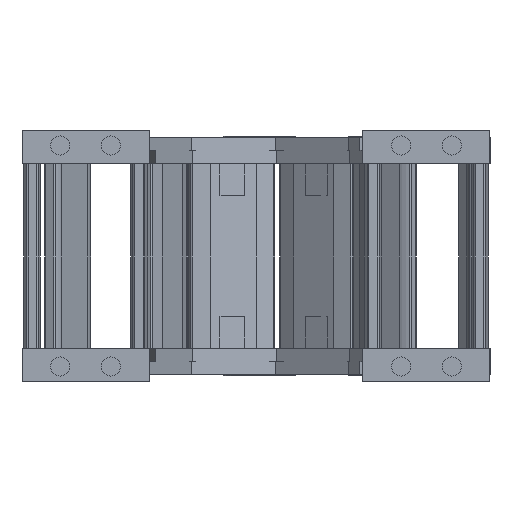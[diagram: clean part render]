
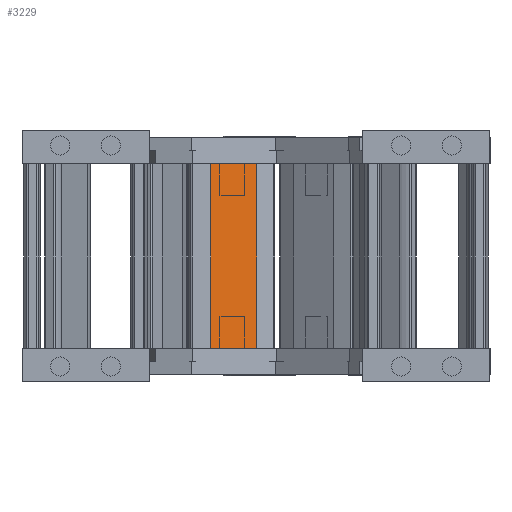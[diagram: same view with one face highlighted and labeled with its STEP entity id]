
A CAD part, left-side view. The second image highlights one B-rep face of the part: STEP entity #3229.
In plain terms, the highlighted planar face has unit normal (-0.962, -0.273, 0) as drawn and (0, -1, 0) by its records, which use the part's own axes.
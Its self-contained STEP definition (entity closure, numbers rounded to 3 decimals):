
#2783=DIRECTION('',(0.,0.,-1.));
#2784=VECTOR('',#2783,15.);
#2785=CARTESIAN_POINT('',(-13.5,0.,7.5));
#2786=LINE('',#2785,#2784);
#2870=DIRECTION('',(-1.,0.,0.));
#2871=VECTOR('',#2870,58.1);
#2872=CARTESIAN_POINT('',(44.6,0.,-7.5));
#2873=LINE('',#2872,#2871);
#2877=DIRECTION('',(1.,0.,0.));
#2878=VECTOR('',#2877,58.1);
#2879=CARTESIAN_POINT('',(-13.5,0.,7.5));
#2880=LINE('',#2879,#2878);
#2884=DIRECTION('',(0.,0.,-1.));
#2885=VECTOR('',#2884,15.);
#2886=CARTESIAN_POINT('',(44.6,0.,7.5));
#2887=LINE('',#2886,#2885);
#3002=CARTESIAN_POINT('',(44.6,0.,7.5));
#3003=CARTESIAN_POINT('',(44.6,0.,-7.5));
#3004=VERTEX_POINT('',#3002);
#3005=VERTEX_POINT('',#3003);
#3026=CARTESIAN_POINT('',(-13.5,0.,-7.5));
#3027=VERTEX_POINT('',#3026);
#3028=CARTESIAN_POINT('',(-13.5,0.,7.5));
#3029=VERTEX_POINT('',#3028);
#3216=CARTESIAN_POINT('',(13.1,0.,0.));
#3217=DIRECTION('',(0.,1.,0.));
#3218=DIRECTION('',(1.,0.,0.));
#3219=AXIS2_PLACEMENT_3D('',#3216,#3217,#3218);
#3220=PLANE('',#3219);
#3221=ORIENTED_EDGE('',*,*,#3202,.T.);
#3222=ORIENTED_EDGE('',*,*,#3067,.F.);
#3224=ORIENTED_EDGE('',*,*,#3223,.T.);
#3226=ORIENTED_EDGE('',*,*,#3225,.T.);
#3227=EDGE_LOOP('',(#3221,#3222,#3224,#3226));
#3228=FACE_OUTER_BOUND('',#3227,.F.);
#3229=ADVANCED_FACE('',(#3228),#3220,.F.);
#3067=EDGE_CURVE('',#3029,#3027,#2786,.T.);
#3202=EDGE_CURVE('',#3005,#3027,#2873,.T.);
#3223=EDGE_CURVE('',#3029,#3004,#2880,.T.);
#3225=EDGE_CURVE('',#3004,#3005,#2887,.T.);
